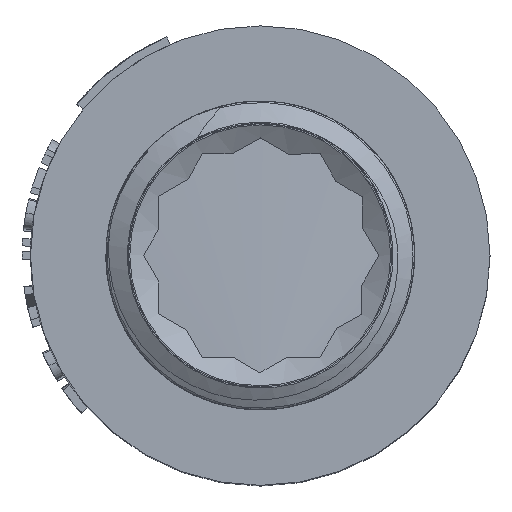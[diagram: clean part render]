
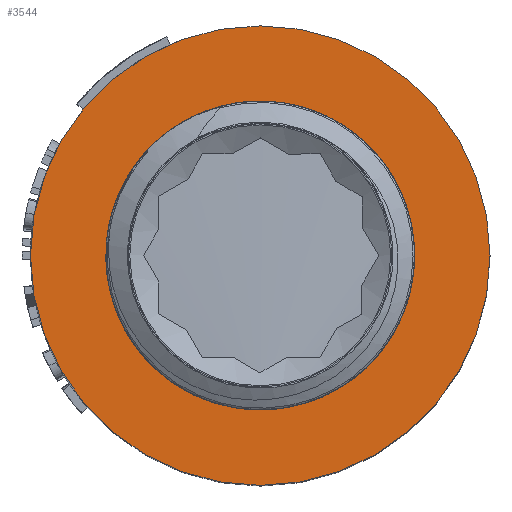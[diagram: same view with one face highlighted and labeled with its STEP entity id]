
A CAD part, top view. The second image highlights one B-rep face of the part: STEP entity #3544.
In plain terms, the highlighted planar face has unit normal (0, 0, 1).
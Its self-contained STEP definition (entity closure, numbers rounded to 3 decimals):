
#83=FACE_BOUND('',#803,.T.);
#431=PLANE('',#3795);
#590=FACE_OUTER_BOUND('',#802,.T.);
#802=EDGE_LOOP('',(#3072,#3073));
#803=EDGE_LOOP('',(#3074,#3075));
#1267=CIRCLE('',#3612,7.825);
#1270=CIRCLE('',#3615,7.825);
#1291=CIRCLE('',#3655,13.65);
#1292=CIRCLE('',#3656,13.65);
#1370=VERTEX_POINT('',#4524);
#1371=VERTEX_POINT('',#4525);
#1418=VERTEX_POINT('',#4772);
#1419=VERTEX_POINT('',#4773);
#1732=EDGE_CURVE('',#1370,#1371,#1267,.T.);
#1736=EDGE_CURVE('',#1371,#1370,#1270,.T.);
#1803=EDGE_CURVE('',#1418,#1419,#1291,.T.);
#1804=EDGE_CURVE('',#1419,#1418,#1292,.T.);
#3072=ORIENTED_EDGE('',*,*,#1803,.T.);
#3073=ORIENTED_EDGE('',*,*,#1804,.T.);
#3074=ORIENTED_EDGE('',*,*,#1732,.F.);
#3075=ORIENTED_EDGE('',*,*,#1736,.F.);
#3544=ADVANCED_FACE('',(#590,#83),#431,.T.);
#3612=AXIS2_PLACEMENT_3D('',#4526,#3849,#3850);
#3615=AXIS2_PLACEMENT_3D('',#4532,#3856,#3857);
#3655=AXIS2_PLACEMENT_3D('',#4774,#3972,#3973);
#3656=AXIS2_PLACEMENT_3D('',#4775,#3974,#3975);
#3795=AXIS2_PLACEMENT_3D('',#7082,#4398,#4399);
#3849=DIRECTION('center_axis',(0.,0.,1.));
#3850=DIRECTION('ref_axis',(1.,0.,0.));
#3856=DIRECTION('center_axis',(0.,0.,1.));
#3857=DIRECTION('ref_axis',(1.,0.,0.));
#3972=DIRECTION('center_axis',(0.,0.,1.));
#3973=DIRECTION('ref_axis',(1.,0.,0.));
#3974=DIRECTION('center_axis',(0.,0.,1.));
#3975=DIRECTION('ref_axis',(1.,0.,0.));
#4398=DIRECTION('center_axis',(0.,0.,1.));
#4399=DIRECTION('ref_axis',(1.,0.,0.));
#4524=CARTESIAN_POINT('',(0.,7.825,-10.));
#4525=CARTESIAN_POINT('',(0.,-7.825,-10.));
#4526=CARTESIAN_POINT('Origin',(0.,0.,-10.));
#4532=CARTESIAN_POINT('Origin',(0.,0.,-10.));
#4772=CARTESIAN_POINT('',(0.,-13.65,-10.));
#4773=CARTESIAN_POINT('',(0.,13.65,-10.));
#4774=CARTESIAN_POINT('Origin',(0.,0.,-10.));
#4775=CARTESIAN_POINT('Origin',(0.,0.,-10.));
#7082=CARTESIAN_POINT('Origin',(0.,-9.17,-10.));
